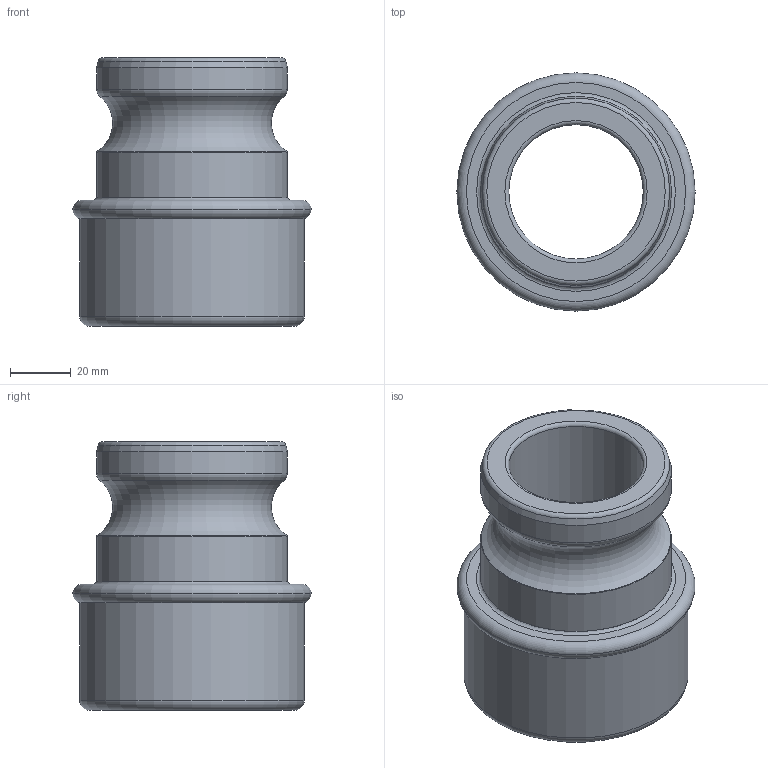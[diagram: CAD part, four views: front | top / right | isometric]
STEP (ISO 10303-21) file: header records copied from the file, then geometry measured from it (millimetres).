
FILE_DESCRIPTION(/* description */ ('Alibre Inc.'),/* implementation_level */ '2;1');
FILE_NAME(/* name */ 'export0',/* time_stamp */ '2016-04-26T10:43:23-04:00',/* author */ (''),/* organization */ (''),/* preprocessor_version */ 'ST-DEVELOPER v14',/* originating_system */ 'Alibre',/* authorisation */ '');
FILE_SCHEMA (('CONFIG_CONTROL_DESIGN'));
Length unit declared in the file: centimetre
Products named in the file (1): ID_1
Bounding box: 78.74 x 78.74 x 88.65 mm (x, y, z)
Volume: 131761.6 mm3; surface area: 38184.6 mm2
Topology: 1 solids, 1 shells, 22 faces, 41 edges, 24 vertices
Faces by surface type: torus 9, cylinder 5, plane 5, cone 3
Full cylindrical faces by diameter (mm): 44.45 x1, 60.198 x1, 63.094 x2, 74.168 x1
Entity records: 519 total; most frequent: DIRECTION 74, CARTESIAN_POINT 66, ORIENTED_EDGE 44, EDGE_LOOP 44, FACE_BOUND 44, AXIS2_PLACEMENT_3D 44, VERTEX_POINT 22, CIRCLE 22
